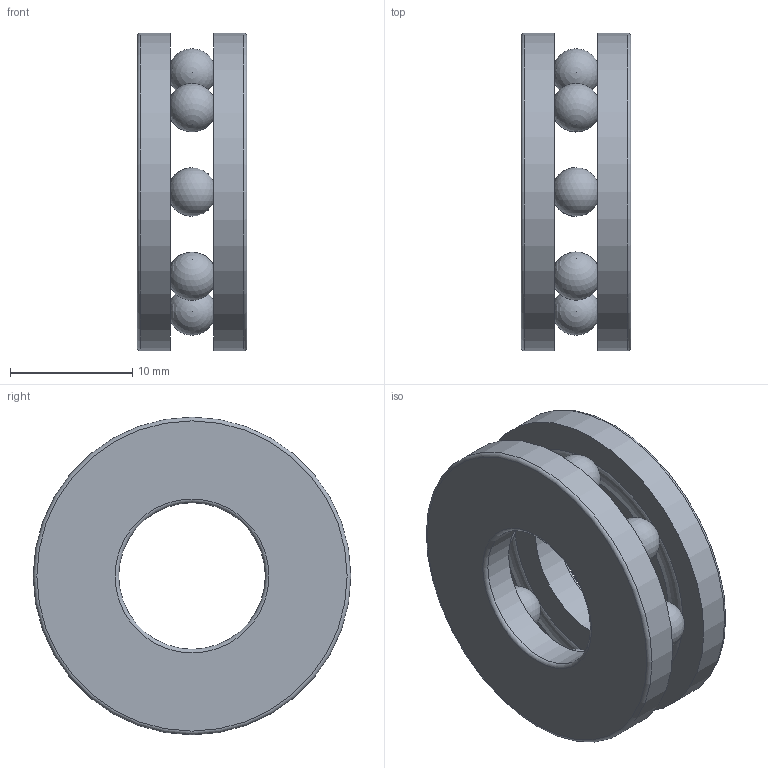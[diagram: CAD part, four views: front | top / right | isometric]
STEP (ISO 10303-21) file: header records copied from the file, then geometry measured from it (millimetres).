
FILE_DESCRIPTION(/* description */ ('롤링 베어링 - 플랫 뒷면이 있는 스러스트 볼 베어링'),/* implementation_level */ '2;1');
FILE_NAME(/* name */ '',/* time_stamp */ '2024-07-11T13:45:04+09:00',/* author */ ('jhkim'),/* organization */ (''),/* preprocessor_version */ 'ST-DEVELOPER v20',/* originating_system */ 'Autodesk Inventor 2025',/* authorisation */ '');
FILE_SCHEMA (('AUTOMOTIVE_DESIGN { 1 0 10303 214 3 1 1 }'));
Length unit declared in the file: millimetre
Products named in the file (1): 스러스트 볼 베어링 
51101
Bounding box: 9 x 26 x 26 mm (x, y, z)
Volume: 2434.2 mm3; surface area: 2654.5 mm2
Topology: 10 solids, 10 shells, 38 faces, 112 edges, 80 vertices
Faces by surface type: torus 20, sphere 8, plane 6, cylinder 4
Full cylindrical faces by diameter (mm): 12 x1, 13 x1, 26 x2
Entity records: 1590 total; most frequent: DIRECTION 314, CARTESIAN_POINT 271, ORIENTED_EDGE 240, AXIS2_PLACEMENT_3D 155, EDGE_CURVE 120, CIRCLE 116, VERTEX_POINT 112, EDGE_LOOP 52
